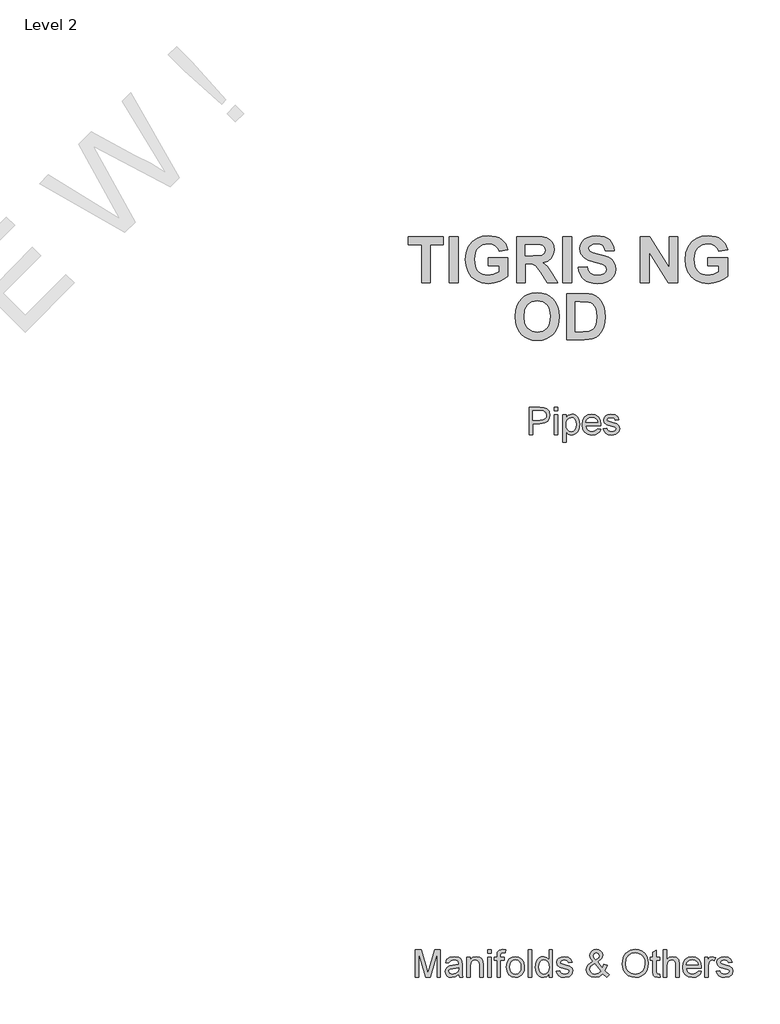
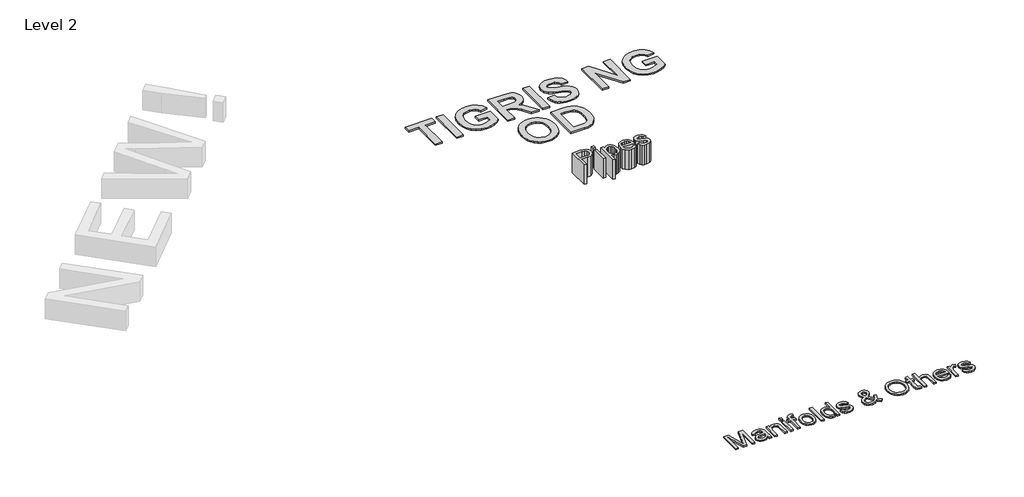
# One storey, part 2 of 2: 3 proxies.
"""IFC4 building model written with IfcOpenShell, lengths in millimetres."""

from ifc_helpers import new_model, si_unit, origin, origin_with_axes, place, context, project, spatial, polyline, outline, extrude, element, save

model = new_model("IFC4")

# Units and contexts
model_context = context("Model", 3, world=origin())
ifc_project = project(units=[si_unit("LENGTHUNIT", "METRE", prefix="MILLI")], contexts=[model_context])

# Site, building, storey
site = spatial("IfcSite", under=ifc_project)
building = spatial("IfcBuilding", under=site)
storey = spatial("IfcBuildingStorey", under=building, Name="Level 2", Elevation=0.0)

# Proxies
placement = place(None, origin())
element("IfcBuildingElementProxy", 1, Name="Arial 150", ObjectType="Arial 150", at=placement, inside=storey, context=model_context, shape_type="SweptSolid", body=[
    extrude(outline(polyline([(9055.0483451, 13029.5898979), (9055.0483451, 13180.2743631), (9110.8928319, 13180.2743631), (9133.4072101, 13178.8396233), (9151.7093393, 13171.7946831), (9163.5735337, 13157.2265561), (9168.061694, 13136.6803467), (9165.0312661, 13118.9208434), (9155.9399823, 13104.1227901), (9138.9392356, 13094.1347939), (9112.1804189, 13090.8054619), (9073.8839032, 13090.8054619), (9073.8839032, 13029.5898979), (9055.0483451, 13029.5898979)]), holes=[polyline([(9073.8839032, 13109.64102), (9113.2840649, 13109.64102), (9129.9859075, 13111.3700654), (9141.0223674, 13116.5572015), (9147.1751937, 13124.8805317), (9149.2261358, 13136.0181591), (9144.3884876, 13151.6163557), (9131.6781647, 13160.151218), (9112.8426065, 13161.438805), (9073.8839032, 13161.438805), (9073.8839032, 13109.64102)])]), origin_with_axes(), (0.0, 0.0, 1.0), 150.0),
    extrude(outline(polyline([(9191.6061417, 13029.5898979), (9191.6061417, 13140.248802), (9210.4416998, 13140.248802), (9210.4416998, 13029.5898979), (9191.6061417, 13029.5898979)])), origin_with_axes(), (0.0, 0.0, 1.0), 150.0),
    extrude(outline(polyline([(9191.6061417, 13161.438805), (9191.6061417, 13180.2743631), (9210.4416998, 13180.2743631), (9210.4416998, 13161.438805), (9191.6061417, 13161.438805)])), origin_with_axes(), (0.0, 0.0, 1.0), 150.0),
    extrude(outline(polyline([(9238.6950371, 12987.209892), (9238.6950371, 13140.248802), (9257.5305952, 13140.248802), (9257.5305952, 13121.7811259), (9270.5536179, 13137.3977166), (9288.1383772, 13142.6032468), (9300.8762913, 13140.7822309), (9312.0139187, 13135.3191833), (9321.0822099, 13126.5451977), (9327.6121153, 13114.791368), (9332.8728278, 13085.7654786), (9331.3875043, 13069.6568457), (9326.9315336, 13055.2496671), (9319.6474701, 13043.2751081), (9309.677868, 13034.4643343), (9298.0665926, 13029.0426734), (9285.8575089, 13027.2354531), (9269.468366, 13032.0731014), (9257.5305952, 13044.3051777), (9257.5305952, 12987.209892), (9238.6950371, 12987.209892)]), holes=[polyline([(9257.5305952, 13084.0364332), (9259.5677418, 13067.1506496), (9265.6791814, 13055.3416376), (9274.6968888, 13048.3886678), (9285.4528387, 13046.0710113), (9296.3835324, 13048.4714413), (9305.6311661, 13055.6727313), (9311.9357438, 13067.9140047), (9314.0372697, 13085.4343848), (9311.9863276, 13102.2281978), (9305.8335012, 13114.2027568), (9296.8295894, 13121.3764557), (9286.2253909, 13123.7676887), (9275.5798056, 13121.2247044), (9266.2310044, 13113.5957515), (9259.7056975, 13101.1199533), (9257.5305952, 13084.0364332)])]), origin_with_axes(), (0.0, 0.0, 1.0), 150.0),
    extrude(outline(polyline([(9431.5387789, 13062.5521247), (9450.0064551, 13060.1976799), (9443.3523895, 13046.2825434), (9432.7343954, 13035.88068), (9418.3915961, 13029.3967598), (9400.563115, 13027.2354531), (9378.4626041, 13030.9648568), (9361.4572589, 13042.153068), (9350.6139371, 13060.0735197), (9346.9994965, 13083.999645), (9350.6507253, 13108.7305121), (9361.6044117, 13127.2257794), (9378.3798306, 13138.75888), (9399.4962572, 13142.6032468), (9419.9550946, 13138.768077), (9436.3028508, 13127.2625676), (9447.0220124, 13108.8040885), (9450.5950663, 13084.1100096), (9450.4847017, 13079.033238), (9365.8350546, 13079.033238), (9369.0954088, 13064.9341606), (9376.6691794, 13054.5690854), (9387.5998731, 13048.1955298), (9400.9309969, 13046.0710113), (9419.3986731, 13050.0073486), (9431.5387789, 13062.5521247)]), holes=[polyline([(9365.8350546, 13097.8687962), (9431.7595081, 13097.8687962), (9429.2119253, 13107.8200042), (9424.2179272, 13114.9385208), (9413.2366497, 13121.5603967), (9399.4226808, 13123.7676887), (9386.7261534, 13122.0064536), (9376.227721, 13116.7227484), (9368.9298619, 13108.4867903), (9365.8350546, 13097.8687962)])]), origin_with_axes(), (0.0, 0.0, 1.0), 150.0),
    extrude(outline(polyline([(9462.3672901, 13062.5521247), (9481.2028483, 13064.9065694), (9484.1734954, 13056.8499537), (9489.9216516, 13050.9270536), (9509.8976439, 13046.0710113), (9529.1010841, 13050.5223834), (9535.355078, 13060.9702321), (9533.7823825, 13065.7710921), (9529.0642959, 13069.431518), (9509.6769147, 13074.8025951), (9481.3132129, 13084.0180391), (9468.9339838, 13094.7785874), (9464.7217349, 13109.9721138), (9468.1062493, 13124.006812), (9477.3400873, 13134.7305721), (9489.3146463, 13140.3039843), (9505.5198482, 13142.6032468), (9528.4388965, 13138.9060328), (9543.0070235, 13128.8996425), (9549.4817466, 13111.9954648), (9530.6461884, 13109.64102), (9523.56446, 13120.0336864), (9506.9913762, 13123.7676887), (9488.9651584, 13120.1992333), (9483.5572931, 13111.8851002), (9485.8013732, 13106.4036585), (9492.8279193, 13102.2465919), (9509.0515153, 13098.2366782), (9536.6978473, 13089.3707221), (9549.5369289, 13079.3275436), (9554.1906361, 13062.9567949), (9548.7275885, 13044.9305771), (9532.963845, 13031.8523722), (9509.6401265, 13027.2354531), (9490.6482185, 13029.4611392), (9476.7882644, 13036.1381974), (9467.5360322, 13047.1930514), (9462.3672901, 13062.5521247)])), origin_with_axes(), (0.0, 0.0, 1.0), 150.0),
])
element("IfcBuildingElementProxy", 2, Name="Arial 150", ObjectType="Arial 150", at=placement, inside=storey, context=model_context, shape_type="SweptSolid", body=[
    extrude(outline(polyline([(8424.0315859, 10030.836461), (8424.0315859, 10181.5209262), (8456.4419897, 10181.5209262), (8487.2705009, 10075.3133942), (8493.4877066, 10053.1301099), (8500.2199471, 10077.1528042), (8530.5334235, 10181.5209262), (8562.9438273, 10181.5209262), (8562.9438273, 10030.836461), (8544.1082691, 10030.836461), (8544.1082691, 10162.6853681), (8506.2532118, 10030.836461), (8480.7222013, 10030.836461), (8442.867144, 10162.6853681), (8442.867144, 10030.836461), (8424.0315859, 10030.836461)])), origin_with_axes(), (0.0, 0.0, 1.0), 10.0),
    extrude(outline(polyline([(8664.1849523, 10044.9631296), (8645.9196113, 10032.1976244), (8625.7412838, 10028.4820162), (8610.000533, 10030.7168994), (8598.3892575, 10037.4215487), (8591.2293542, 10047.6026829), (8588.8427197, 10060.2670206), (8592.4479633, 10075.1662414), (8601.9209246, 10085.9819721), (8615.1094942, 10092.1623896), (8631.4066666, 10094.995081), (8664.0745877, 10101.4698041), (8664.1849523, 10105.6636588), (8662.8881683, 10114.0697624), (8658.9978162, 10119.5695982), (8650.297407, 10123.6530884), (8638.1756953, 10125.0142518), (8619.1194079, 10121.3906141), (8610.0327226, 10108.5331384), (8591.1971645, 10110.8875832), (8599.3457507, 10129.2816829), (8615.7532877, 10140.0606254), (8640.6037164, 10143.8498099), (8663.4307942, 10140.5020838), (8676.3250582, 10132.0959802), (8682.1008055, 10119.3120808), (8683.0205105, 10102.8309675), (8683.0205105, 10079.3968844), (8683.9770037, 10046.6737809), (8687.7294, 10030.836461), (8668.8938419, 10030.836461), (8664.1849523, 10044.9631296)]), holes=[polyline([(8664.1849523, 10082.6342459), (8633.7978995, 10076.8584986), (8617.5926976, 10073.805078), (8610.2534518, 10068.8386711), (8607.6782779, 10061.5913958), (8613.2884783, 10051.4010645), (8629.7511976, 10047.3175744), (8648.8074849, 10051.8241288), (8661.0947436, 10062.73183), (8664.0745877, 10077.299957), (8664.1849523, 10082.6342459)])]), origin_with_axes(), (0.0, 0.0, 1.0), 10.0),
    extrude(outline(polyline([(8708.9194029, 10030.836461), (8708.9194029, 10141.4953651), (8727.7549611, 10141.4953651), (8727.7549611, 10126.0443214), (8742.1575412, 10139.3984378), (8761.8208339, 10143.8498099), (8779.6079283, 10140.2629605), (8791.7480342, 10130.8451814), (8797.3950228, 10116.9944243), (8798.3883042, 10098.7842655), (8798.3883042, 10030.836461), (8779.552746, 10030.836461), (8779.552746, 10096.2458797), (8777.3822422, 10112.9109341), (8769.7119026, 10121.7217079), (8756.7808505, 10125.0142518), (8745.7489892, 10123.1656447), (8736.3450057, 10117.6198237), (8729.9024722, 10106.9052606), (8727.7549611, 10089.5504274), (8727.7549611, 10030.836461), (8708.9194029, 10030.836461)])), origin_with_axes(), (0.0, 0.0, 1.0), 10.0),
    extrude(outline(polyline([(8824.2871966, 10030.836461), (8824.2871966, 10141.4953651), (8843.1227548, 10141.4953651), (8843.1227548, 10030.836461), (8824.2871966, 10030.836461)])), origin_with_axes(), (0.0, 0.0, 1.0), 10.0),
    extrude(outline(polyline([(8824.2871966, 10162.6853681), (8824.2871966, 10181.5209262), (8843.1227548, 10181.5209262), (8843.1227548, 10162.6853681), (8824.2871966, 10162.6853681)])), origin_with_axes(), (0.0, 0.0, 1.0), 10.0),
    extrude(outline(polyline([(8876.0849816, 10030.836461), (8876.0849816, 10122.659807), (8859.6038682, 10122.659807), (8859.6038682, 10141.4953651), (8876.0849816, 10141.4953651), (8876.0849816, 10152.6421896), (8878.0715443, 10168.3507508), (8887.7100526, 10179.5711516), (8906.6927636, 10183.875371), (8923.8728527, 10181.8152318), (8921.1137378, 10164.1568961), (8910.2612189, 10165.0398128), (8898.3970246, 10161.9128159), (8894.9205397, 10150.2509566), (8894.9205397, 10141.4953651), (8916.1105426, 10141.4953651), (8916.1105426, 10122.659807), (8894.9205397, 10122.659807), (8894.9205397, 10030.836461), (8876.0849816, 10030.836461)])), origin_with_axes(), (0.0, 0.0, 1.0), 10.0),
    extrude(outline(polyline([(8927.8827665, 10086.1659131), (8931.9570596, 10112.8465548), (8944.1799389, 10131.5993395), (8959.2814948, 10140.7871923), (8977.3628948, 10143.8498099), (8997.1503476, 10140.1204062), (9012.9554779, 10128.932195), (9023.3159545, 10111.1680932), (9026.7694468, 10087.7110175), (9025.2427365, 10068.6823213), (9020.6626057, 10054.1969677), (9013.1624115, 10043.3490474), (9002.8755112, 10035.2326508), (8990.6572304, 10030.1696749), (8977.3628948, 10028.4820162), (8957.3363187, 10032.1976244), (8941.5495826, 10043.3444488), (8931.2994705, 10061.4810312), (8927.8827665, 10086.1659131)]), holes=[polyline([(8946.7183246, 10086.2027013), (8948.8980254, 10069.1559693), (8955.4371279, 10057.011265), (8965.2779713, 10049.740997), (8977.3628948, 10047.3175744), (8989.3926361, 10049.7547926), (8999.2150853, 10057.0664473), (9005.7541878, 10069.3721), (9007.9338886, 10086.7913125), (9005.7403922, 10103.3414037), (8999.159903, 10115.3205612), (8989.3236582, 10122.5908291), (8977.3628948, 10125.0142518), (8965.2779713, 10122.6000262), (8955.4371279, 10115.3573494), (8948.8980254, 10103.2402362), (8946.7183246, 10086.2027013)])]), origin_with_axes(), (0.0, 0.0, 1.0), 10.0),
    extrude(outline(polyline([(9047.9594497, 10030.836461), (9047.9594497, 10181.5209262), (9066.7950079, 10181.5209262), (9066.7950079, 10030.836461), (9047.9594497, 10030.836461)])), origin_with_axes(), (0.0, 0.0, 1.0), 10.0),
    extrude(outline(polyline([(9163.3272434, 10030.836461), (9163.3272434, 10048.6051614), (9150.8652408, 10033.5128025), (9133.6391664, 10028.4820162), (9121.4622723, 10030.3030321), (9110.3154479, 10035.7660797), (9100.8792747, 10044.4894815), (9093.8343345, 10056.09156), (9089.4473417, 10070.1032655), (9087.9850108, 10086.0555485), (9093.374482, 10116.0379311), (9100.1067225, 10127.9297166), (9109.5245016, 10136.676111), (9120.9150479, 10142.0563852), (9133.56559, 10143.8498099), (9150.9296201, 10138.7178561), (9163.3272434, 10125.3821338), (9163.3272434, 10181.5209262), (9182.1628015, 10181.5209262), (9182.1628015, 10030.836461), (9163.3272434, 10030.836461)]), holes=[polyline([(9106.8205689, 10086.1291249), (9108.9450874, 10069.09159), (9115.318643, 10056.9744768), (9124.5800722, 10049.7318), (9135.3682118, 10047.3175744), (9146.1517527, 10049.6214354), (9155.1786572, 10056.5330184), (9161.2900968, 10068.181082), (9163.3272434, 10084.6943851), (9161.2533086, 10102.748194), (9155.0315044, 10115.2653789), (9145.7746737, 10122.5770335), (9134.5956596, 10125.0142518), (9123.6971555, 10122.6736026), (9114.76682, 10115.651655), (9108.8071317, 10103.5897241), (9106.8205689, 10086.1291249)])]), origin_with_axes(), (0.0, 0.0, 1.0), 10.0),
    extrude(outline(polyline([(9203.3528045, 10063.7986878), (9222.1883626, 10066.1531325), (9225.1590097, 10058.0965168), (9230.9071659, 10052.1736167), (9250.8831582, 10047.3175744), (9270.0865984, 10051.7689465), (9276.3405923, 10062.2167952), (9274.7678968, 10067.0176552), (9270.0498102, 10070.6780811), (9250.662429, 10076.0491582), (9222.2987272, 10085.2646022), (9209.9194981, 10096.0251505), (9205.7072492, 10111.2186769), (9209.0917636, 10125.2533751), (9218.3256017, 10135.9771352), (9230.3001606, 10141.5505474), (9246.5053625, 10143.8498099), (9269.4244108, 10140.1525959), (9283.9925378, 10130.1462056), (9290.4672609, 10113.2420279), (9271.6317028, 10110.8875832), (9264.5499744, 10121.2802495), (9247.9768905, 10125.0142518), (9229.9506727, 10121.4457964), (9224.5428074, 10113.1316633), (9226.7868876, 10107.6502216), (9233.8134337, 10103.493155), (9250.0370296, 10099.4832413), (9277.6833616, 10090.6172852), (9290.5224432, 10080.5741067), (9295.1761505, 10064.203358), (9289.7131028, 10046.1771402), (9273.9493593, 10033.0989353), (9250.6256408, 10028.4820162), (9231.6337328, 10030.7077023), (9217.7737787, 10037.3847605), (9208.5215465, 10048.4396145), (9203.3528045, 10063.7986878)])), origin_with_axes(), (0.0, 0.0, 1.0), 10.0),
    extrude(outline(polyline([(9461.6427533, 10049.45129), (9441.6667609, 10033.7243347), (9418.3062542, 10028.4820162), (9397.5209215, 10032.3631713), (9381.5180547, 10044.0066364), (9373.268301, 10057.4067381), (9370.5183831, 10072.2967619), (9372.7302736, 10085.4945284), (9379.3659451, 10097.3495257), (9390.3978064, 10107.8525567), (9405.7982664, 10116.9944243), (9392.6464851, 10136.0507116), (9389.3539412, 10150.1773802), (9391.9475093, 10162.8969002), (9399.7282135, 10173.8321925), (9411.436058, 10181.3645764), (9425.8110469, 10183.875371), (9439.4870601, 10181.474941), (9450.4223524, 10174.2736509), (9457.5960513, 10163.7062406), (9459.9872843, 10151.2074498), (9458.2168522, 10140.7136159), (9452.9055559, 10131.0107283), (9431.6603707, 10113.9777919), (9458.9204265, 10080.0222838), (9467.0506186, 10100.8811929), (9485.8861768, 10096.7977027), (9472.5688485, 10065.7852505), (9495.3039558, 10042.9765668), (9481.1772872, 10028.4820162), (9461.6427533, 10049.45129)]), holes=[polyline([(9422.132227, 10125.8603804), (9437.620059, 10137.5406337), (9441.1517261, 10148.6322759), (9436.4980189, 10160.459682), (9424.8545538, 10165.0398128), (9412.9535712, 10160.4964702), (9408.1894994, 10149.404828), (9409.8081802, 10142.5070406), (9414.7010107, 10134.836701), (9422.132227, 10125.8603804)]), polyline([(9449.0244008, 10063.0261356), (9415.3999865, 10105.0014712), (9394.7066243, 10089.2193336), (9389.3539412, 10074.7983594), (9391.1841541, 10065.9140092), (9396.6747929, 10056.6985653), (9405.5223549, 10049.6628221), (9417.4233375, 10047.3175744), (9434.7321853, 10051.6953701), (9449.0244008, 10063.0261356)])]), origin_with_axes(), (0.0, 0.0, 1.0), 10.0),
    extrude(outline(polyline([(9568.2917437, 10104.1921308), (9573.3133329, 10137.5130426), (9579.5903195, 10151.1315742), (9588.3781006, 10162.7221563), (9611.3799224, 10178.5870673), (9640.2126737, 10183.875371), (9659.9771339, 10181.3921675), (9677.699849, 10173.9425571), (9692.4151288, 10162.0507716), (9703.1572831, 10146.2410429), (9709.7239767, 10127.276726), (9711.9128746, 10105.9211762), (9709.6090136, 10084.2805178), (9702.6974306, 10065.0494866), (9691.5598032, 10049.2121667), (9676.577809, 10037.7526425), (9659.0068452, 10030.7996728), (9640.1023091, 10028.4820162), (9620.0343463, 10031.0433946), (9602.2104636, 10038.7275298), (9587.531972, 10050.8400445), (9576.9001824, 10066.6865614), (9570.4438533, 10084.9197128), (9568.2917437, 10104.1921308)]), holes=[polyline([(9587.1273018, 10104.0081898), (9590.8934938, 10080.436151), (9602.1920695, 10062.4743126), (9619.1744221, 10051.1067589), (9639.9919445, 10047.3175744), (9661.1129696, 10051.1435471), (9678.1229133, 10062.6214654), (9689.3387157, 10081.1351268), (9693.0773164, 10106.068329), (9691.4770298, 10122.7425804), (9686.6761697, 10137.1543576), (9678.7988965, 10148.940377), (9667.9693703, 10157.7373552), (9654.9049609, 10163.2141984), (9640.3230383, 10165.0398128), (9620.0619374, 10161.5219413), (9602.835863, 10150.9683265), (9591.0544421, 10132.1925492), (9587.1273018, 10104.0081898)])]), origin_with_axes(), (0.0, 0.0, 1.0), 10.0),
    extrude(outline(polyline([(9775.4828834, 10046.5450222), (9777.8373281, 10030.284638), (9763.7474477, 10028.4820162), (9747.9653101, 10031.6090132), (9740.0926354, 10039.8127817), (9737.8117671, 10061.1867256), (9737.8117671, 10122.659807), (9723.6850984, 10122.659807), (9723.6850984, 10141.4953651), (9737.8117671, 10141.4953651), (9737.8117671, 10168.387539), (9756.6473252, 10179.4607871), (9756.6473252, 10141.4953651), (9775.4828834, 10141.4953651), (9775.4828834, 10122.659807), (9756.6473252, 10122.659807), (9756.6473252, 10061.7385486), (9757.6406066, 10052.0264639), (9760.8595741, 10048.5867673), (9767.2791149, 10047.3175744), (9775.4828834, 10046.5450222)])), origin_with_axes(), (0.0, 0.0, 1.0), 10.0),
    extrude(outline(polyline([(9794.3184415, 10030.836461), (9794.3184415, 10181.5209262), (9813.1539997, 10181.5209262), (9813.1539997, 10126.1178978), (9827.8416883, 10139.4168319), (9845.9322854, 10143.8498099), (9867.0855002, 10139.0121617), (9879.9245818, 10125.6396512), (9883.7873427, 10100.8811929), (9883.7873427, 10030.836461), (9864.9517846, 10030.836461), (9864.9517846, 10098.9314183), (9863.4526655, 10110.7220363), (9858.9553081, 10118.797046), (9851.7080328, 10123.4599503), (9841.9591599, 10125.0142518), (9826.5265102, 10120.820397), (9816.2258143, 10109.4528434), (9813.1539997, 10089.6240038), (9813.1539997, 10030.836461), (9794.3184415, 10030.836461)])), origin_with_axes(), (0.0, 0.0, 1.0), 10.0),
    extrude(outline(polyline([(9987.1621834, 10063.7986878), (10005.6298595, 10061.444243), (9998.975794, 10047.5291065), (9988.3577999, 10037.1272431), (9974.0150006, 10030.643323), (9956.1865194, 10028.4820162), (9934.0860085, 10032.21142), (9917.0806633, 10043.3996311), (9906.2373415, 10061.3200828), (9902.6229009, 10085.2462081), (9906.2741297, 10109.9770752), (9917.2278161, 10128.4723425), (9934.0032351, 10140.0054431), (9955.1196616, 10143.8498099), (9975.5784991, 10140.0146401), (9991.9262552, 10128.5091307), (10002.6454169, 10110.0506516), (10006.2184707, 10085.3565727), (10006.1081061, 10080.2798012), (9921.458459, 10080.2798012), (9924.7188132, 10066.1807237), (9932.2925838, 10055.8156485), (9943.2232776, 10049.4420929), (9956.5544014, 10047.3175744), (9975.0220775, 10051.2539117), (9987.1621834, 10063.7986878)]), holes=[polyline([(9921.458459, 10099.1153593), (9987.3829126, 10099.1153593), (9984.8353298, 10109.0665673), (9979.8413317, 10116.1850839), (9968.8600541, 10122.8069598), (9955.0460852, 10125.0142518), (9942.3495578, 10123.2530167), (9931.8511254, 10117.9693116), (9924.5532663, 10109.7333534), (9921.458459, 10099.1153593)])]), origin_with_axes(), (0.0, 0.0, 1.0), 10.0),
    extrude(outline(polyline([(10025.0540289, 10030.836461), (10025.0540289, 10141.4953651), (10041.5351423, 10141.4953651), (10041.5351423, 10125.1246164), (10053.2337897, 10140.2077782), (10065.0060136, 10143.8498099), (10083.9151481, 10138.0372744), (10077.624366, 10121.1514908), (10064.3806142, 10125.0142518), (10053.7304304, 10121.2986436), (10046.9430076, 10110.9979477), (10043.889587, 10088.9986044), (10043.889587, 10030.836461), (10025.0540289, 10030.836461)])), origin_with_axes(), (0.0, 0.0, 1.0), 10.0),
    extrude(outline(polyline([(10088.6240377, 10063.7986878), (10107.4595958, 10066.1531325), (10110.4302429, 10058.0965168), (10116.1783991, 10052.1736167), (10136.1543914, 10047.3175744), (10155.3578316, 10051.7689465), (10161.6118255, 10062.2167952), (10160.03913, 10067.0176552), (10155.3210434, 10070.6780811), (10135.9336622, 10076.0491582), (10107.5699604, 10085.2646022), (10095.1907313, 10096.0251505), (10090.9784824, 10111.2186769), (10094.3629968, 10125.2533751), (10103.5968349, 10135.9771352), (10115.5713938, 10141.5505474), (10131.7765957, 10143.8498099), (10154.695644, 10140.1525959), (10169.263771, 10130.1462056), (10175.7384941, 10113.2420279), (10156.902936, 10110.8875832), (10149.8212076, 10121.2802495), (10133.2481237, 10125.0142518), (10115.2219059, 10121.4457964), (10109.8140406, 10113.1316633), (10112.0581207, 10107.6502216), (10119.0846669, 10103.493155), (10135.3082628, 10099.4832413), (10162.9545948, 10090.6172852), (10175.7936764, 10080.5741067), (10180.4473837, 10064.203358), (10174.984336, 10046.1771402), (10159.2205925, 10033.0989353), (10135.896874, 10028.4820162), (10116.904966, 10030.7077023), (10103.0450119, 10037.3847605), (10093.7927797, 10048.4396145), (10088.6240377, 10063.7986878)])), origin_with_axes(), (0.0, 0.0, 1.0), 10.0),
])
element("IfcBuildingElementProxy", 3, Name="Arial 250", ObjectType="Arial 250", at=placement, inside=storey, context=model_context, shape_type="SweptSolid", body=[
    extrude(outline(polyline([(8458.4170968, 13868.8896104), (8458.4170968, 14079.4193278), (8385.5414254, 14079.4193278), (8385.5414254, 14123.9544604), (8579.8765492, 14123.9544604), (8579.8765492, 14079.4193278), (8507.0008778, 14079.4193278), (8507.0008778, 13868.8896104), (8458.4170968, 13868.8896104)])), origin_with_axes(), (0.0, 0.0, 1.0), 10.0),
    extrude(outline(polyline([(8612.2657365, 13868.8896104), (8612.2657365, 14123.9544604), (8660.8495175, 14123.9544604), (8660.8495175, 13868.8896104), (8612.2657365, 13868.8896104)])), origin_with_axes(), (0.0, 0.0, 1.0), 10.0),
    extrude(outline(polyline([(8826.8441024, 13962.0085239), (8826.8441024, 14006.5436564), (8936.1576095, 14006.5436564), (8936.1576095, 13904.821365), (8916.641859, 13889.8998815), (8889.9777135, 13876.892017), (8859.5495903, 13867.8537257), (8828.7419063, 13864.840962), (8791.9086948, 13869.0319457), (8760.1046637, 13881.6048968), (8734.4526804, 13901.9667516), (8716.0756122, 13929.5244464), (8705.0209042, 13962.0480614), (8701.3360016, 13997.3076772), (8705.5032627, 14034.8288427), (8718.0050462, 14067.937614), (8738.5408664, 14095.2422682), (8766.8102376, 14115.3510825), (8794.2967647, 14124.8401022), (8827.7930043, 14128.0031088), (8869.9954195, 14122.8948532), (8887.2120597, 14116.5095336), (8901.8389882, 14107.5700863), (8923.7507162, 14083.2307507), (8936.1576095, 14051.0787889), (8887.5738286, 14042.9814921), (8879.3974566, 14059.7849645), (8866.2551643, 14072.6188637), (8848.6846627, 14080.7556981), (8827.2236632, 14083.4679762), (8795.4196321, 14078.1699402), (8782.2338484, 14071.5473952), (8770.858886, 14062.2758322), (8761.6980283, 14050.3947888), (8755.1545584, 14035.9438025), (8749.9197825, 13999.3320014), (8755.1229283, 13959.9762921), (8761.6268606, 13944.5151206), (8770.7323658, 13931.8650712), (8781.9491778, 13922.0261439), (8794.7870308, 13914.9983387), (8825.3258592, 13909.3760945), (8858.7588387, 13915.5439573), (8887.5738286, 13930.5049784), (8887.5738286, 13962.0085239), (8826.8441024, 13962.0085239)])), origin_with_axes(), (0.0, 0.0, 1.0), 10.0),
    extrude(outline(polyline([(8984.7413905, 13868.8896104), (8984.7413905, 14123.9544604), (9092.0305734, 14123.9544604), (9126.981796, 14122.2306218), (9150.8624956, 14117.059106), (9167.3733899, 14107.4751961), (9180.2151966, 14092.514175), (9188.4706438, 14073.5835807), (9191.2224595, 14052.090951), (9187.2449787, 14025.7589213), (9175.3125364, 14004.4560721), (9155.4567627, 13989.1471203), (9127.7092875, 13980.7967829), (9153.2031205, 13959.5413787), (9180.2784568, 13918.3590332), (9211.4657016, 13868.8896104), (9154.7213636, 13868.8896104), (9117.7774469, 13927.1521914), (9088.7726766, 13961.7238533), (9072.1985222, 13971.4975436), (9044.4589545, 13974.1544691), (9033.3251714, 13974.1544691), (9033.3251714, 13868.8896104), (8984.7413905, 13868.8896104)]), holes=[polyline([(9033.3251714, 14018.6896016), (9073.3688346, 14018.6896016), (9121.9842456, 14021.6311977), (9137.1666772, 14031.7528188), (9142.6386785, 14049.687066), (9140.8357648, 14060.6073462), (9135.4270236, 14069.2028166), (9126.7287555, 14075.2678817), (9115.0572612, 14078.5969461), (9075.5829392, 14079.4193278), (9033.3251714, 14079.4193278), (9033.3251714, 14018.6896016)])]), origin_with_axes(), (0.0, 0.0, 1.0), 10.0),
    extrude(outline(polyline([(9239.8062404, 13868.8896104), (9239.8062404, 14123.9544604), (9288.3900214, 14123.9544604), (9288.3900214, 13868.8896104), (9239.8062404, 13868.8896104)])), origin_with_axes(), (0.0, 0.0, 1.0), 10.0),
    extrude(outline(polyline([(9324.8278571, 13953.911227), (9373.4116381, 13957.9598754), (9380.4967728, 13936.2300203), (9392.3896775, 13921.1424789), (9409.1694274, 13912.3176906), (9430.9150975, 13909.3760945), (9453.4831494, 13911.9776674), (9469.6935581, 13919.7823861), (9479.4672484, 13931.0664121), (9482.7251452, 13944.1059067), (9477.316404, 13959.3199683), (9458.3699946, 13970.232341), (9416.238747, 13981.0498234), (9380.2753623, 13992.2310517), (9356.9007437, 14005.9110551), (9338.9190514, 14029.2065985), (9332.9251539, 14057.0885014), (9335.6769696, 14075.8767605), (9343.9324168, 14093.3998169), (9357.3751947, 14108.2817628), (9375.6890028, 14119.1466904), (9398.5733553, 14125.7890042), (9425.7277668, 14128.0031088), (9467.6929565, 14122.4836623), (9484.233504, 14115.5843542), (9497.8126865, 14105.9253229), (9508.4739956, 14093.9652043), (9516.2609224, 14080.1626344), (9521.173467, 14064.5176131), (9523.2116293, 14047.0301405), (9474.6278484, 14047.0301405), (9469.2586447, 14063.7229077), (9459.9831279, 14074.9594886), (9445.9472863, 14081.3408543), (9426.2971079, 14083.4679762), (9405.611045, 14081.2064265), (9389.9857925, 14074.4217774), (9383.6281493, 14067.6213133), (9381.5089349, 14058.8597851), (9383.4383689, 14050.5885229), (9389.2266709, 14043.6140934), (9406.0301433, 14035.445629), (9436.8299198, 14027.0083089), (9469.7014656, 14018.2309657), (9492.720246, 14009.0424316), (9508.8515795, 13997.916556), (9521.0607849, 13983.3271882), (9528.7468908, 13965.0924553), (9531.3089261, 13943.0304844), (9528.2803474, 13921.9648607), (9519.194611, 13902.2909598), (9504.5657056, 13885.7484354), (9484.9076197, 13874.0769412), (9460.0068505, 13867.1499568), (9429.6498949, 13864.840962), (9406.9474152, 13866.262338), (9387.0441964, 13870.5264663), (9369.9402383, 13877.6333467), (9355.6355411, 13887.5829792), (9344.0312608, 13900.2567512), (9335.0285533, 13915.5360498), (9328.6274188, 13933.4208751), (9324.8278571, 13953.911227)])), origin_with_axes(), (0.0, 0.0, 1.0), 10.0),
    extrude(outline(polyline([(9668.9629722, 13868.8896104), (9668.9629722, 14123.9544604), (9719.887378, 14123.9544604), (9826.8602603, 13952.2664636), (9826.8602603, 14123.9544604), (9875.4440412, 14123.9544604), (9875.4440412, 13868.8896104), (9822.9381321, 13868.8896104), (9717.5467531, 14038.0472019), (9717.5467531, 13868.8896104), (9668.9629722, 13868.8896104)])), origin_with_axes(), (0.0, 0.0, 1.0), 10.0),
    extrude(outline(polyline([(10041.4386261, 13962.0085239), (10041.4386261, 14006.5436564), (10150.7521333, 14006.5436564), (10150.7521333, 13904.821365), (10131.2363827, 13889.8998815), (10104.5722373, 13876.892017), (10074.1441141, 13867.8537257), (10043.3364301, 13864.840962), (10006.5032185, 13869.0319457), (9974.6991874, 13881.6048968), (9949.0472041, 13901.9667516), (9930.670136, 13929.5244464), (9919.615428, 13962.0480614), (9915.9305253, 13997.3076772), (9920.0977865, 14034.8288427), (9932.59957, 14067.937614), (9953.1353901, 14095.2422682), (9981.4047614, 14115.3510825), (10008.8912885, 14124.8401022), (10042.3875281, 14128.0031088), (10084.5899433, 14122.8948532), (10101.8065834, 14116.5095336), (10116.433512, 14107.5700863), (10138.34524, 14083.2307507), (10150.7521333, 14051.0787889), (10102.1683523, 14042.9814921), (10093.9919803, 14059.7849645), (10080.849688, 14072.6188637), (10063.2791865, 14080.7556981), (10041.8181869, 14083.4679762), (10010.0141558, 14078.1699402), (9996.8283722, 14071.5473952), (9985.4534098, 14062.2758322), (9976.292552, 14050.3947888), (9969.7490822, 14035.9438025), (9964.5143063, 13999.3320014), (9969.7174521, 13959.9762921), (9976.2213844, 13944.5151206), (9985.3268895, 13931.8650712), (9996.5437016, 13922.0261439), (10009.3815545, 13914.9983387), (10039.920383, 13909.3760945), (10073.3533624, 13915.5439573), (10102.1683523, 13930.5049784), (10102.1683523, 13962.0085239), (10041.4386261, 13962.0085239)])), origin_with_axes(), (0.0, 0.0, 1.0), 10.0),
    extrude(outline(polyline([(8976.6440936, 13680.0621575), (8979.5066146, 13715.8357618), (8988.0941774, 13745.3466131), (8998.1920759, 13763.7790339), (9011.4055359, 13780.2345756), (9026.8805455, 13793.7010761), (9043.7630931, 13803.1663733), (9068.9722555, 13810.710144), (9097.7872453, 13813.2247342), (9124.0797375, 13811.0442365), (9147.6045989, 13804.5027436), (9168.3618295, 13793.6002553), (9186.3514294, 13778.3367717), (9200.8814908, 13759.1906975), (9211.2601061, 13736.6404375), (9217.4872753, 13710.6859917), (9219.5629984, 13681.3273601), (9217.5030904, 13652.1683933), (9211.3233663, 13626.3701209), (9201.0238261, 13603.932543), (9186.6044699, 13584.8556597), (9168.7334828, 13569.6336905), (9148.0790498, 13558.7608554), (9124.6411711, 13552.2371544), (9098.4198467, 13550.0625874), (9071.9217591, 13552.22727), (9048.2861925, 13558.7213179), (9027.5131468, 13569.544731), (9009.6026221, 13584.6975093), (8995.1832659, 13603.6458956), (8984.8837257, 13625.8561323), (8978.7040017, 13651.3282197), (8976.6440936, 13680.0621575)]), holes=[polyline([(9025.2278746, 13681.8334412), (9030.3914828, 13644.0829577), (9036.8459931, 13629.1100754), (9045.8823075, 13616.7387659), (9069.3280937, 13600.1329814), (9098.3565865, 13594.5977199), (9127.3218192, 13600.0934438), (9150.577825, 13616.5806156), (9159.5034342, 13628.9459944), (9165.8788693, 13644.0592352), (9170.9792174, 13682.5293026), (9166.0132971, 13720.4221213), (9159.8058967, 13735.2408071), (9151.1155362, 13747.3076772), (9127.9939581, 13763.3441205), (9098.3565865, 13768.6896016), (9068.6559548, 13763.2808604), (9045.3445964, 13747.0546367), (9036.5435306, 13734.8652001), (9030.257055, 13719.9318553), (9025.2278746, 13681.8334412)])]), origin_with_axes(), (0.0, 0.0, 1.0), 10.0),
    extrude(outline(polyline([(9260.0494825, 13809.1760858), (9354.4968588, 13809.1760858), (9382.6476172, 13807.9583282), (9403.20716, 13804.3050556), (9424.1146334, 13795.108614), (9441.7958401, 13780.8039168), (9455.942387, 13762.0472878), (9466.245881, 13739.495051), (9472.5323565, 13712.1903967), (9474.6278484, 13679.1765156), (9472.6667843, 13649.8870748), (9466.7835921, 13624.8993229), (9455.1120978, 13599.7217905), (9439.328695, 13579.8581093), (9423.5452922, 13568.2498752), (9403.0173796, 13559.4883469), (9383.0429931, 13555.4555136), (9357.2803045, 13554.1112358), (9260.0494825, 13554.1112358), (9260.0494825, 13809.1760858)]), holes=[polyline([(9308.6332635, 13764.6409532), (9308.6332635, 13598.6463683), (9350.0053894, 13598.6463683), (9383.5332591, 13601.0502533), (9405.8957156, 13611.4565449), (9413.9692898, 13621.1906977), (9420.4139157, 13635.6535452), (9424.6365295, 13655.5488565), (9426.0440674, 13681.5804006), (9424.6365295, 13707.248199), (9420.4139157, 13726.1787933), (9413.6688042, 13740.0327621), (9404.6937731, 13750.4706838), (9393.2357817, 13757.777229), (9379.0417898, 13762.2370682), (9333.5577552, 13764.6409532), (9308.6332635, 13764.6409532)])]), origin_with_axes(), (0.0, 0.0, 1.0), 10.0),
])

save(model, "model.ifc")
